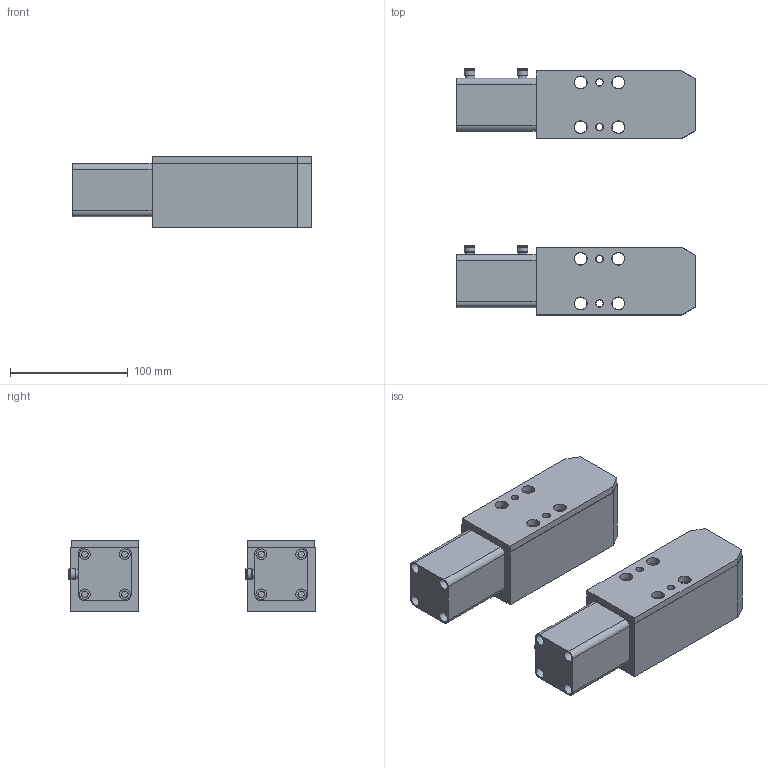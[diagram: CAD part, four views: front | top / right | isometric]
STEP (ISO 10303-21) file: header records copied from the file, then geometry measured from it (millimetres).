
FILE_DESCRIPTION(('STEP AP214'),'1');
FILE_NAME('step-1001.0020.stp','2020-12-10T08:50:35',(' '),(' '),'Spatial InterOp 3D',' ',' ');
FILE_SCHEMA(('AUTOMOTIVE_DESIGN { 1 0 10303 214 1 1 1 1 }'));
Length unit declared in the file: millimetre
Products named in the file (7): (PMS) 1001.0020; 1; 6; Assemblato; (PMI) 1001.0020; 3; 5
Assembly tree (6 placements, depth 3):
  Assemblato
    (PMS) 1001.0020
      1
      6
    (PMI) 1001.0020
      3
      5
Bounding box: 204 x 209.75 x 61 mm (x, y, z)
Volume: 1084999.4 mm3; surface area: 181219.6 mm2
Topology: 4 solids, 4 shells, 814 faces, 2112 edges, 1408 vertices
Faces by surface type: extrusion 378, plane 284, cylinder 134, torus 12, cone 4, sphere 2
Full cylindrical faces by diameter (mm): 5.5 x8, 6 x4, 6.5 x4, 6.8 x4, 7.5 x8, 9 x20, 10.5 x8, 11 x8, 16.9 x8, 20 x2
Entity records: 31506 total; most frequent: CARTESIAN_POINT 6549, ORIENTED_EDGE 3992, DIRECTION 2790, EDGE_CURVE 1996, VERTEX_POINT 1386, VECTOR 1332, B_SPLINE_CURVE_WITH_KNOTS 1136, EDGE_LOOP 1034
